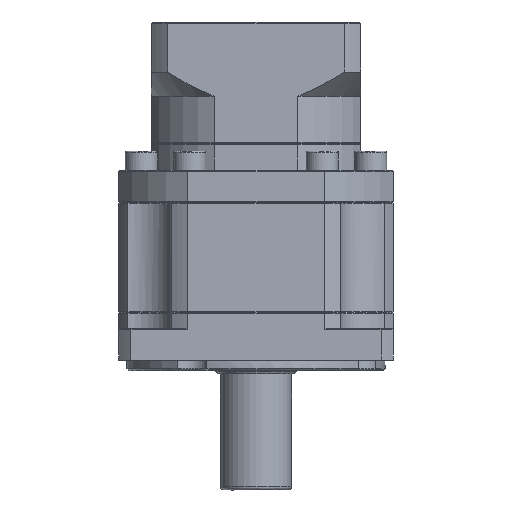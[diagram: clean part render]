
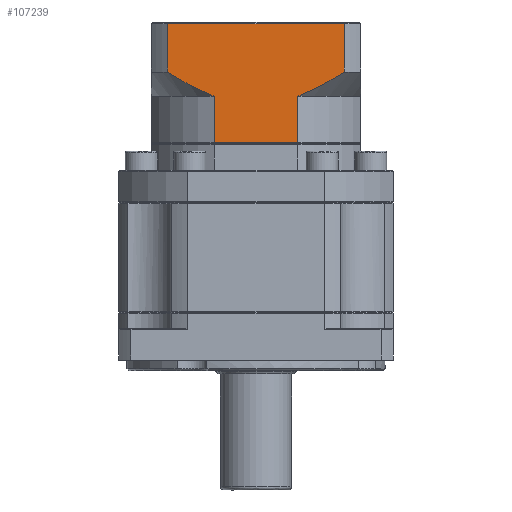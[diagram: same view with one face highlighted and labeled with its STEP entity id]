
A CAD part, front view. The second image highlights one B-rep face of the part: STEP entity #107239.
In plain terms, the highlighted planar face has unit normal (0, -1, 0).
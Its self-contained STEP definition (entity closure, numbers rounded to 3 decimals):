
#2402 = LINE ( 'NONE', #112319, #115497 ) ;
#3302 = VECTOR ( 'NONE', #31715, 1000. ) ;
#4371 = AXIS2_PLACEMENT_3D ( 'NONE', #93093, #39587, #102012 ) ;
#5443 = DIRECTION ( 'NONE',  ( 1., 0., 0. ) ) ;
#5923 = DIRECTION ( 'NONE',  ( 0., 0., 1. ) ) ;
#6978 = CARTESIAN_POINT ( 'NONE',  ( -96.657, -10.417, 16.716 ) ) ;
#8970 = DIRECTION ( 'NONE',  ( 0., 0., -1. ) ) ;
#11070 = ORIENTED_EDGE ( 'NONE', *, *, #48715, .T. ) ;
#12348 = DIRECTION ( 'NONE',  ( 0., 0., 1. ) ) ;
#12679 = CARTESIAN_POINT ( 'NONE',  ( -45.292, -10.417, 17.444 ) ) ;
#12862 = VERTEX_POINT ( 'NONE', #17687 ) ;
#14443 = ORIENTED_EDGE ( 'NONE', *, *, #38202, .F. ) ;
#17014 = VECTOR ( 'NONE', #8970, 1000. ) ;
#17687 = CARTESIAN_POINT ( 'NONE',  ( -58.549, -10.417, -3.734 ) ) ;
#18286 = EDGE_LOOP ( 'NONE', ( #107567, #11070, #113802, #64783, #14443, #69075, #35334, #30229 ) ) ;
#21651 = CARTESIAN_POINT ( 'NONE',  ( -48.779, -10.417, 15.344 ) ) ;
#23447 = CARTESIAN_POINT ( 'NONE',  ( -84.53, -10.417, 10.678 ) ) ;
#24524 = DIRECTION ( 'NONE',  ( -1., 0., 0. ) ) ;
#24538 = CARTESIAN_POINT ( 'NONE',  ( -84.53, -10.417, 10.678 ) ) ;
#29131 = VERTEX_POINT ( 'NONE', #72011 ) ;
#29931 = EDGE_CURVE ( 'NONE', #36158, #69025, #67787, .T. ) ;
#30229 = ORIENTED_EDGE ( 'NONE', *, *, #29931, .F. ) ;
#30442 = VERTEX_POINT ( 'NONE', #76641 ) ;
#30605 = CARTESIAN_POINT ( 'NONE',  ( -53.559, -10.417, 12.765 ) ) ;
#31715 = DIRECTION ( 'NONE',  ( 0., 0., -1. ) ) ;
#31877 = CARTESIAN_POINT ( 'NONE',  ( -58.549, -10.417, 10.678 ) ) ;
#32149 = VERTEX_POINT ( 'NONE', #62437 ) ;
#35334 = ORIENTED_EDGE ( 'NONE', *, *, #81254, .F. ) ;
#35465 = CARTESIAN_POINT ( 'NONE',  ( -44.153, -10.417, 15.678 ) ) ;
#36158 = VERTEX_POINT ( 'NONE', #111948 ) ;
#38202 = EDGE_CURVE ( 'NONE', #29131, #32149, #113659, .T. ) ;
#39586 = CARTESIAN_POINT ( 'NONE',  ( -58.549, -10.417, 10.678 ) ) ;
#39587 = DIRECTION ( 'NONE',  ( 0., 1., 0. ) ) ;
#42468 = CARTESIAN_POINT ( 'NONE',  ( -87.072, -10.417, 11.694 ) ) ;
#48715 = EDGE_CURVE ( 'NONE', #30442, #58511, #109457, .T. ) ;
#49907 = EDGE_CURVE ( 'NONE', #30442, #36158, #111960, .T. ) ;
#51479 = CARTESIAN_POINT ( 'NONE',  ( -89.549, -10.417, 12.818 ) ) ;
#53837 = CARTESIAN_POINT ( 'NONE',  ( -98.926, -10.417, 33.178 ) ) ;
#58511 = VERTEX_POINT ( 'NONE', #53837 ) ;
#60422 = CARTESIAN_POINT ( 'NONE',  ( -94.342, -10.417, 15.328 ) ) ;
#62437 = CARTESIAN_POINT ( 'NONE',  ( -84.53, -10.417, 10.678 ) ) ;
#64783 = ORIENTED_EDGE ( 'NONE', *, *, #98656, .F. ) ;
#65070 = LINE ( 'NONE', #83434, #106956 ) ;
#65735 = CARTESIAN_POINT ( 'NONE',  ( -44.153, -10.417, 18.178 ) ) ;
#66143 = CARTESIAN_POINT ( 'NONE',  ( -46.443, -10.417, 16.729 ) ) ;
#67787 = B_SPLINE_CURVE_WITH_KNOTS ( 'NONE', 3,
 ( #65735, #12679, #66143, #21651, #84180, #30605, #93090, #39586 ),
 .UNSPECIFIED., .F., .F.,
 ( 4, 2, 2, 4 ),
 ( 0.059, 0.063, 0.067, 0.075 ),
 .UNSPECIFIED. ) ;
#69025 = VERTEX_POINT ( 'NONE', #31877 ) ;
#69075 = ORIENTED_EDGE ( 'NONE', *, *, #104415, .T. ) ;
#69445 = CARTESIAN_POINT ( 'NONE',  ( -98.926, -10.417, 18.178 ) ) ;
#72011 = CARTESIAN_POINT ( 'NONE',  ( -84.53, -10.417, -3.734 ) ) ;
#76301 = CARTESIAN_POINT ( 'NONE',  ( -58.549, -10.417, 10.678 ) ) ;
#76641 = CARTESIAN_POINT ( 'NONE',  ( -44.153, -10.417, 33.178 ) ) ;
#78046 = CARTESIAN_POINT ( 'NONE',  ( -85.173, -10.417, 10.916 ) ) ;
#81254 = EDGE_CURVE ( 'NONE', #69025, #12862, #98288, .T. ) ;
#83434 = CARTESIAN_POINT ( 'NONE',  ( -98.926, -10.417, 15.678 ) ) ;
#84180 = CARTESIAN_POINT ( 'NONE',  ( -49.965, -10.417, 14.674 ) ) ;
#85846 = VECTOR ( 'NONE', #24524, 1000. ) ;
#87445 = CARTESIAN_POINT ( 'NONE',  ( -98.926, -10.417, 33.178 ) ) ;
#89973 = VECTOR ( 'NONE', #5923, 1000. ) ;
#90398 = VERTEX_POINT ( 'NONE', #111858 ) ;
#93090 = CARTESIAN_POINT ( 'NONE',  ( -56.01, -10.417, 11.62 ) ) ;
#93093 = CARTESIAN_POINT ( 'NONE',  ( -39.04, -10.417, 33.678 ) ) ;
#95998 = CARTESIAN_POINT ( 'NONE',  ( -85.811, -10.417, 11.168 ) ) ;
#98288 = LINE ( 'NONE', #76301, #3302 ) ;
#98656 = EDGE_CURVE ( 'NONE', #32149, #90398, #109848, .T. ) ;
#98858 = EDGE_CURVE ( 'NONE', #90398, #58511, #65070, .T. ) ;
#102012 = DIRECTION ( 'NONE',  ( -1., 0., 0. ) ) ;
#103918 = FACE_OUTER_BOUND ( 'NONE', #18286, .T. ) ;
#104415 = EDGE_CURVE ( 'NONE', #29131, #12862, #2402, .T. ) ;
#104902 = CARTESIAN_POINT ( 'NONE',  ( -87.696, -10.417, 11.968 ) ) ;
#106956 = VECTOR ( 'NONE', #12348, 1000. ) ;
#107239 = ADVANCED_FACE ( 'NONE', ( #103918 ), #110629, .F. ) ;
#107567 = ORIENTED_EDGE ( 'NONE', *, *, #49907, .F. ) ;
#109457 = LINE ( 'NONE', #87445, #85846 ) ;
#109848 = B_SPLINE_CURVE_WITH_KNOTS ( 'NONE', 3,
 ( #24538, #78046, #95998, #42468, #104902, #51479, #113897, #60422, #6978, #69445 ),
 .UNSPECIFIED., .F., .F.,
 ( 4, 2, 2, 2, 4 ),
 ( 0.101, 0.104, 0.106, 0.11, 0.118 ),
 .UNSPECIFIED. ) ;
#110629 = PLANE ( 'NONE',  #4371 ) ;
#111858 = CARTESIAN_POINT ( 'NONE',  ( -98.926, -10.417, 18.178 ) ) ;
#111948 = CARTESIAN_POINT ( 'NONE',  ( -44.153, -10.417, 18.178 ) ) ;
#111960 = LINE ( 'NONE', #35465, #17014 ) ;
#112319 = CARTESIAN_POINT ( 'NONE',  ( -39.04, -10.417, -3.734 ) ) ;
#113659 = LINE ( 'NONE', #23447, #89973 ) ;
#113802 = ORIENTED_EDGE ( 'NONE', *, *, #98858, .F. ) ;
#113897 = CARTESIAN_POINT ( 'NONE',  ( -90.761, -10.417, 13.423 ) ) ;
#115497 = VECTOR ( 'NONE', #5443, 1000. ) ;
